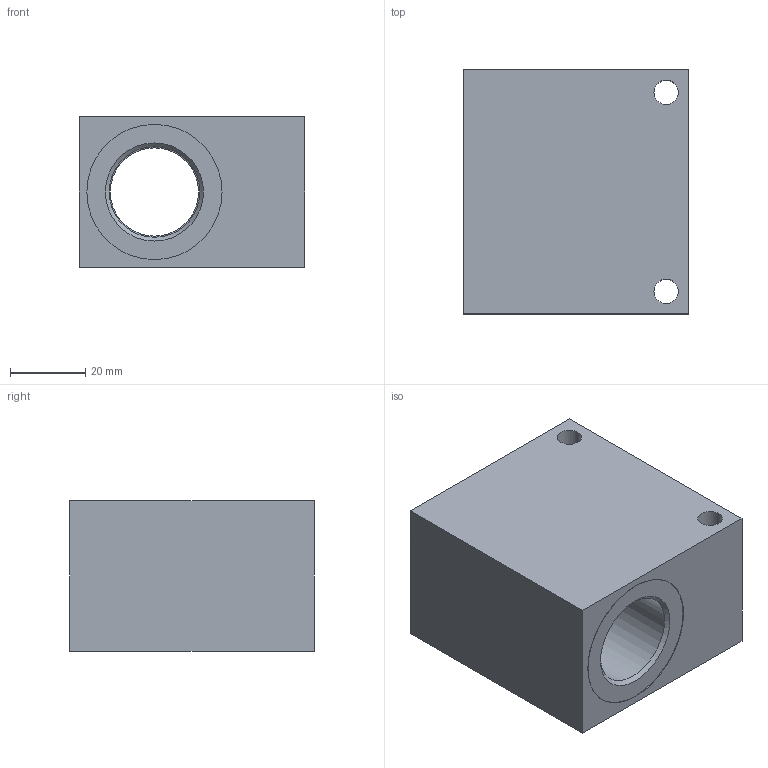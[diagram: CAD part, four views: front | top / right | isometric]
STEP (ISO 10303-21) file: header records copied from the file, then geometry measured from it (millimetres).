
FILE_DESCRIPTION(/* description */ ('Collettore'),/* implementation_level */ '2;1');
FILE_NAME(/* name */ '\\VAULT_LUEN\Autodesk\STEP\005-529-001.stp',/* time_stamp */ '2019-07-30T13:21:08+02:00',/* author */ ('manuel.piccinini'),/* organization */ ('LUEN s.r.l.'),/* preprocessor_version */ 'ST-DEVELOPER v17',/* originating_system */ 'Autodesk Inventor 2018',/* authorisation */ '');
FILE_SCHEMA (('CONFIG_CONTROL_DESIGN'));
Length unit declared in the file: millimetre
Products named in the file (1): 005.529.001
Bounding box: 60 x 65 x 40 mm (x, y, z)
Volume: 111191.3 mm3; surface area: 24883.6 mm2
Topology: 1 solids, 1 shells, 28 faces, 75 edges, 53 vertices
Faces by surface type: cylinder 10, plane 10, cone 7, torus 1
Full cylindrical faces by diameter (mm): 6.5 x2, 13 x1, 23.5 x1, 24.117 x3, 35 x1, 36 x2
Entity records: 1000 total; most frequent: CARTESIAN_POINT 191, DIRECTION 175, ORIENTED_EDGE 150, EDGE_CURVE 75, AXIS2_PLACEMENT_3D 73, VERTEX_POINT 53, CIRCLE 44, EDGE_LOOP 40
